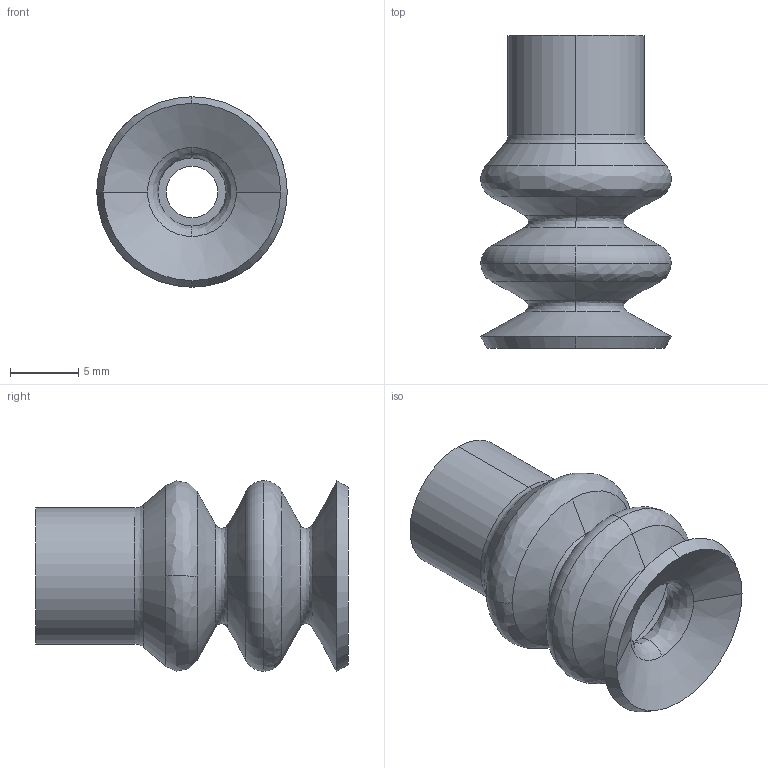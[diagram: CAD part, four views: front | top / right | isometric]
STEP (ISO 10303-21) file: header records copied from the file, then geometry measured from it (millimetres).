
FILE_DESCRIPTION (( 'STEP AP214' ), '1' );
FILE_NAME ('FG-14.STEP', '2023-03-07T06:41:25', ( 'Windows User' ), ( 'P R C' ), 'SwSTEP 2.0', 'SolidWorks 2019', '' );
FILE_SCHEMA (( 'AUTOMOTIVE_DESIGN' ));
Length unit declared in the file: millimetre
Products named in the file (1): FG-14
Bounding box: 14 x 23 x 14 mm (x, y, z)
Volume: 1309.4 mm3; surface area: 1880.2 mm2
Topology: 1 solids, 1 shells, 52 faces, 128 edges, 78 vertices
Faces by surface type: cone 22, bspline 22, cylinder 4, torus 2, plane 2
Entity records: 1836 total; most frequent: CARTESIAN_POINT 655, ORIENTED_EDGE 256, DIRECTION 248, EDGE_CURVE 128, AXIS2_PLACEMENT_3D 111, CIRCLE 80, VERTEX_POINT 78, EDGE_LOOP 54
